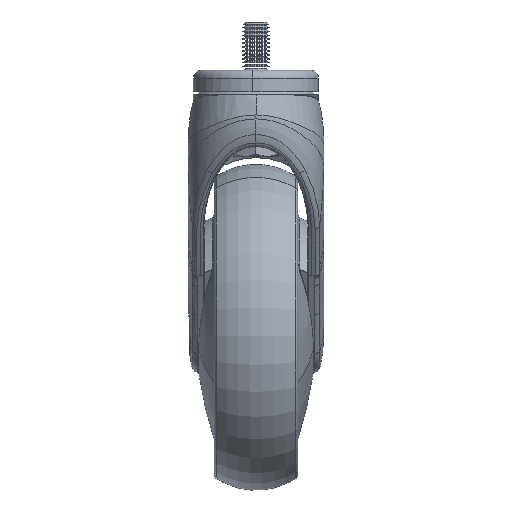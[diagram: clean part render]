
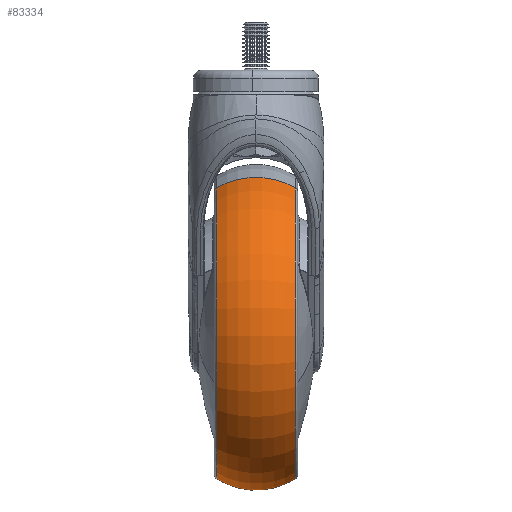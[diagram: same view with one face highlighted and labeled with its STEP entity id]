
A CAD part, left-side view. The second image highlights one B-rep face of the part: STEP entity #83334.
In plain terms, the highlighted toroidal (fillet/blend) face has major radius 34.5 mm and minor radius 28 mm.
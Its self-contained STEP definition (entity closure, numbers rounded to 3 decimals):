
#1697 = EDGE_CURVE ( 'NONE', #2054, #2045, #34993, .T. ) ;
#2045 = VERTEX_POINT ( 'NONE', #31676 ) ;
#2049 = EDGE_CURVE ( 'NONE', #2054, #2135, #31667, .T. ) ;
#2054 = VERTEX_POINT ( 'NONE', #31677 ) ;
#2056 = VERTEX_POINT ( 'NONE', #31670 ) ;
#2135 = VERTEX_POINT ( 'NONE', #31678 ) ;
#2145 = EDGE_CURVE ( 'NONE', #2045, #2056, #31686, .T. ) ;
#26715 = DIRECTION ( 'NONE',  ( 0.394, 0., -0.919 ) ) ;
#26716 = DIRECTION ( 'NONE',  ( 0., -1., 0. ) ) ;
#26740 = AXIS2_PLACEMENT_3D ( 'NONE', #26749, #26716, #26715 ) ;
#26742 = FACE_OUTER_BOUND ( 'NONE', #83823, .T. ) ;
#26749 = CARTESIAN_POINT ( 'NONE',  ( 31.655, 7.654, -47.107 ) ) ;
#26764 = TOROIDAL_SURFACE ( 'NONE', #26740, 34.5, 28. ) ;
#26925 = DIRECTION ( 'NONE',  ( 0.394, 0., -0.919 ) ) ;
#26926 = DIRECTION ( 'NONE',  ( 0., -1., 0. ) ) ;
#26927 = CARTESIAN_POINT ( 'NONE',  ( 31.655, -7.423, -47.107 ) ) ;
#26928 = AXIS2_PLACEMENT_3D ( 'NONE', #26927, #26926, #26925 ) ;
#26935 = CIRCLE ( 'NONE', #26928, 58.094 ) ;
#31645 = DIRECTION ( 'NONE',  ( 0.394, 0., -0.919 ) ) ;
#31647 = DIRECTION ( 'NONE',  ( 0.919, 0., 0.394 ) ) ;
#31649 = AXIS2_PLACEMENT_3D ( 'NONE', #31657, #31647, #31645 ) ;
#31657 = CARTESIAN_POINT ( 'NONE',  ( 18.063, 7.654, -15.397 ) ) ;
#31667 = CIRCLE ( 'NONE', #31649, 28. ) ;
#31670 = CARTESIAN_POINT ( 'NONE',  ( 54.541, -7.423, -100.503 ) ) ;
#31676 = CARTESIAN_POINT ( 'NONE',  ( 54.541, 22.731, -100.503 ) ) ;
#31677 = CARTESIAN_POINT ( 'NONE',  ( 8.768, 22.731, 6.289 ) ) ;
#31678 = CARTESIAN_POINT ( 'NONE',  ( 8.768, -7.423, 6.289 ) ) ;
#31686 = CIRCLE ( 'NONE', #31768, 28. ) ;
#31728 = DIRECTION ( 'NONE',  ( -0.394, 0., 0.919 ) ) ;
#31729 = DIRECTION ( 'NONE',  ( -0.919, 0., -0.394 ) ) ;
#31767 = CARTESIAN_POINT ( 'NONE',  ( 45.246, 7.654, -78.817 ) ) ;
#31768 = AXIS2_PLACEMENT_3D ( 'NONE', #31767, #31729, #31728 ) ;
#33893 = DIRECTION ( 'NONE',  ( 0., -1., 0. ) ) ;
#33897 = DIRECTION ( 'NONE',  ( 0.394, 0., -0.919 ) ) ;
#34970 = CARTESIAN_POINT ( 'NONE',  ( 31.655, 22.731, -47.107 ) ) ;
#34972 = AXIS2_PLACEMENT_3D ( 'NONE', #34970, #33893, #33897 ) ;
#34993 = CIRCLE ( 'NONE', #34972, 58.094 ) ;
#79170 = ORIENTED_EDGE ( 'NONE', *, *, #2049, .F. ) ;
#81438 = ORIENTED_EDGE ( 'NONE', *, *, #1697, .T. ) ;
#83334 = ADVANCED_FACE ( 'NONE', ( #26742 ), #26764, .T. ) ;
#83611 = ORIENTED_EDGE ( 'NONE', *, *, #86540, .F. ) ;
#83823 = EDGE_LOOP ( 'NONE', ( #79170, #81438, #91163, #83611 ) ) ;
#86540 = EDGE_CURVE ( 'NONE', #2135, #2056, #26935, .T. ) ;
#91163 = ORIENTED_EDGE ( 'NONE', *, *, #2145, .T. ) ;
